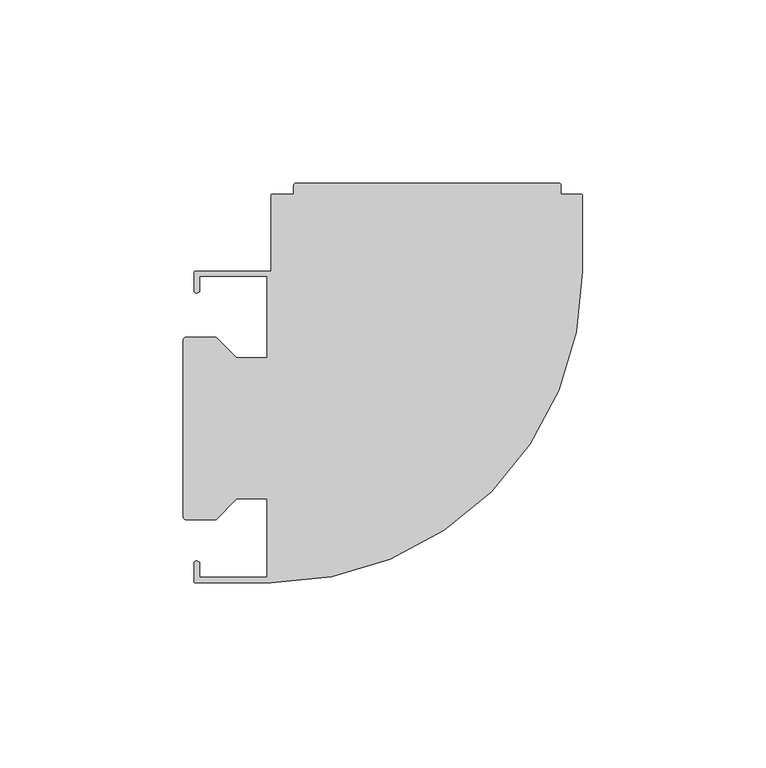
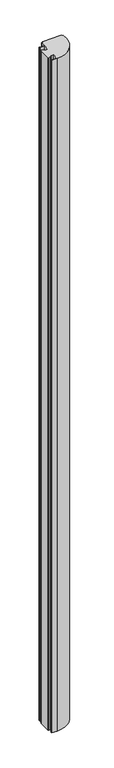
"""IFC4 building model written with IfcOpenShell, lengths in millimetres: member geometry, Прямоугольный импост : AMG-2-Профиль 85Х85 Угловой 1 сторона Верт Л."""

from ifc_helpers import new_model, si_unit, point, frame, frame_2d, origin, place, context, project, spatial, polyline, circle_curve, trimmed, segment, composite_curve, outline, extrude, source, transform, mapped, element, save


def member_a8e8a51c(model_context):
    return source(origin(), model_context, "Body", "SweptSolid", [
        extrude(outline(composite_curve([segment(trimmed(circle_curve(frame_2d((-105.2, -36.8999999)), 0.8), [point((-105.9953124, -36.8135237))], [point((-105.2, -36.0999999))], False, "CARTESIAN"), True, "CONTINUOUS"), segment(polyline([(-105.2, -36.0999999), (-104.5, -36.4566677), (-104.5, -40.5999999), (-86.0, -40.5999999), (-86.0, -19.1999999), (-94.35, -19.1999999), (-100.0, -24.8499999), (-108.0953124, -24.8499999)]), True, "CONTINUOUS"), segment(trimmed(circle_curve(frame_2d((-108.0953124, -24.0499999)), 0.8), [point((-108.0953124, -24.8499999))], [point((-108.8953124, -24.0499999))], False, "CARTESIAN"), True, "CONTINUOUS"), segment(polyline([(-108.8953124, -24.0499999), (-108.8953124, 24.0499999)]), True, "CONTINUOUS"), segment(trimmed(circle_curve(frame_2d((-108.0953124, 24.0499999)), 0.8), [point((-108.8953124, 24.0499999))], [point((-108.0953124, 24.8499999))], False, "CARTESIAN"), True, "CONTINUOUS"), segment(polyline([(-108.0953124, 24.8499999), (-100.0, 24.8499999), (-94.35, 19.1999999), (-86.0, 19.1999999), (-86.0, 41.5000001), (-104.5, 41.5000001), (-104.5, 37.2379177), (-105.2, 36.8812499)]), True, "CONTINUOUS"), segment(trimmed(circle_curve(frame_2d((-105.2, 37.6812499)), 0.8), [point((-105.2, 36.8812499))], [point((-105.9953124, 37.5947737))], False, "CARTESIAN"), True, "CONTINUOUS"), segment(polyline([(-105.9953124, 37.5947737), (-105.9953124, 42.4000001)]), True, "CONTINUOUS"), segment(trimmed(circle_curve(frame_2d((-105.4953124, 42.4000001)), 0.5), [point((-105.9953124, 42.4000001))], [point((-105.4953124, 42.9000001))], False, "CARTESIAN"), True, "CONTINUOUS"), segment(polyline([(-105.4953124, 42.9000001), (-85.0, 42.9000001), (-85.0, 63.4000001)]), True, "CONTINUOUS"), segment(trimmed(circle_curve(frame_2d((-84.5, 63.4000001)), 0.5), [point((-85.0, 63.4000001))], [point((-84.5, 63.9000001))], False, "CARTESIAN"), True, "CONTINUOUS"), segment(polyline([(-84.5, 63.9000001), (-78.75, 63.9000001), (-78.75, 66.3000001)]), True, "CONTINUOUS"), segment(trimmed(circle_curve(frame_2d((-78.25, 66.3000001)), 0.5), [point((-78.75, 66.3000001))], [point((-78.25, 66.8000001))], False, "CARTESIAN"), True, "CONTINUOUS"), segment(polyline([(-78.25, 66.8000001), (-6.35, 66.8000001)]), True, "CONTINUOUS"), segment(trimmed(circle_curve(frame_2d((-6.35, 66.3000001)), 0.5), [point((-6.35, 66.8000001))], [point((-5.85, 66.3000001))], False, "CARTESIAN"), True, "CONTINUOUS"), segment(polyline([(-5.85, 66.3000001), (-5.85, 63.9000001), (-0.5, 63.9000001)]), True, "CONTINUOUS"), segment(trimmed(circle_curve(frame_2d((-0.5, 63.4000001)), 0.5), [point((-0.5, 63.9000001))], [point((0.0, 63.4000001))], False, "CARTESIAN"), True, "CONTINUOUS"), segment(polyline([(0.0, 63.4000001), (0.0, 42.9000001)]), True, "CONTINUOUS"), segment(trimmed(circle_curve(frame_2d((-85.0, 42.9000001)), 85.0), [point((0.0, 42.9000001))], [point((-85.0, -42.0999999))], False, "CARTESIAN"), True, "CONTINUOUS"), segment(polyline([(-85.0, -42.0999999), (-105.4953124, -42.0999999)]), True, "CONTINUOUS"), segment(trimmed(circle_curve(frame_2d((-105.4953124, -41.5999999)), 0.5), [point((-105.4953124, -42.0999999))], [point((-105.9953124, -41.5999999))], False, "CARTESIAN"), True, "CONTINUOUS"), segment(polyline([(-105.9953124, -41.5999999), (-105.9953124, -36.8135237)]), True, "CONTINUOUS")], self_intersect=False)), frame((0.0, 0.0, -2758.9), z_axis=(0.0, 0.0, 1.0), x_axis=(1.0, 0.0, 0.0)), (0.0, 0.0, 1.0), 2758.9),
    ])


if __name__ == "__main__":
    model = new_model("IFC4")
    model_context = context("Model", 3, world=origin())
    ifc_project = project(units=[si_unit("LENGTHUNIT", "METRE", prefix="MILLI")], contexts=[model_context])
    site = spatial("IfcSite", under=ifc_project)
    building = spatial("IfcBuilding", under=site)
    placement = place(None, origin())
    member_shape = member_a8e8a51c(model_context)
    element("IfcMember", 1, ObjectType="Прямоугольный импост : AMG-2-Профиль 85Х85 Угловой 1 сторона Верт Л", at=placement, inside=building, context=model_context, shape_type="MappedRepresentation", body=[
        mapped(member_shape, transform((0.0, 0.0, 0.0), x_axis=(1.0, 0.0, 0.0), y_axis=(0.0, 1.0, 0.0), z_axis=(0.0, 0.0, 1.0))),
    ])
    save(model, "model.ifc")
